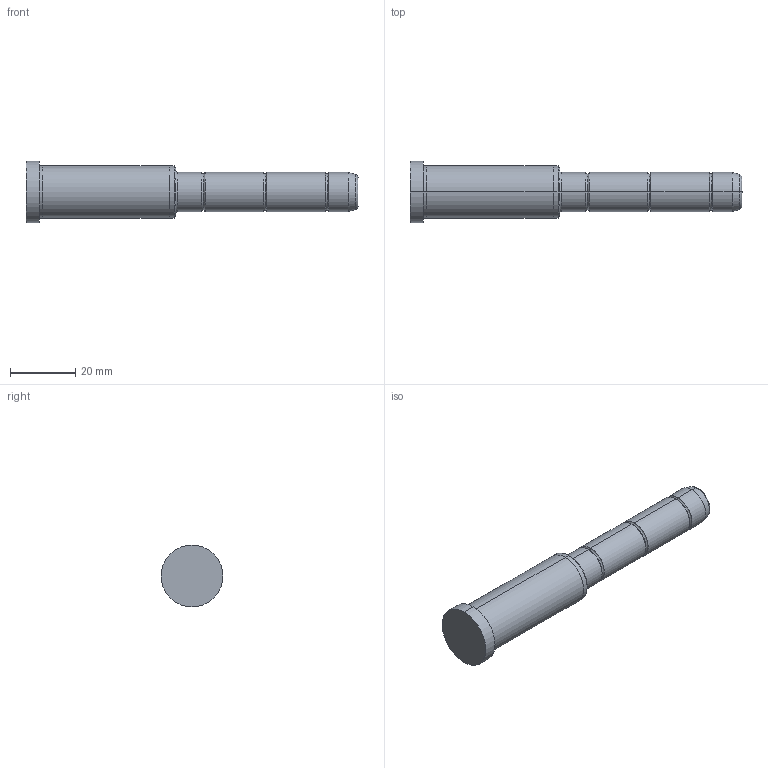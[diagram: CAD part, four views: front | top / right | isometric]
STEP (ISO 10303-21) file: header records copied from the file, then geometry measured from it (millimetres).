
FILE_DESCRIPTION( ( 'STEP AP203' ), '1' );
FILE_NAME( 'D:/Delta 3 D/D02/12/D02 - 12x46x56.step', '2003-01-04T12:26:03', ( ' ' ), ( ' ' ), 'XStep 1.0', ' ', ' ' );
FILE_SCHEMA( ( 'CONFIG_CONTROL_DESIGN' ) );
Length unit declared in the file: metre
Products named in the file (1): 1
Bounding box: 102 x 19 x 19 mm (x, y, z)
Volume: 15837.8 mm3; surface area: 5023.9 mm2
Topology: 1 solids, 1 shells, 42 faces, 82 edges, 46 vertices
Faces by surface type: bspline 22, revolution 20
Entity records: 1325 total; most frequent: CARTESIAN_POINT 517, ORIENTED_EDGE 164, DIRECTION 134, EDGE_CURVE 82, AXIS2_PLACEMENT_3D 47, EDGE_LOOP 46, VERTEX_POINT 46, CIRCLE 46
